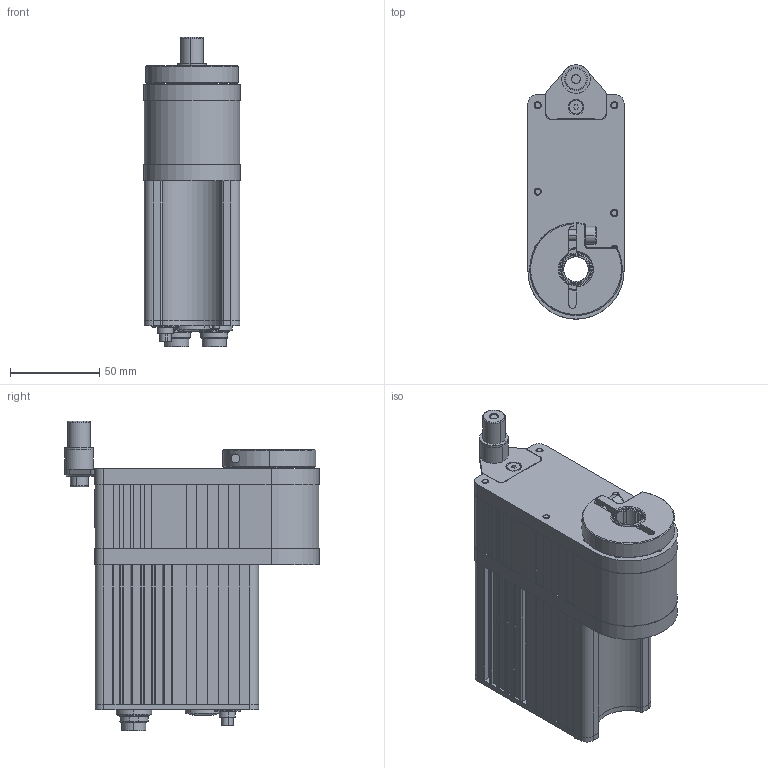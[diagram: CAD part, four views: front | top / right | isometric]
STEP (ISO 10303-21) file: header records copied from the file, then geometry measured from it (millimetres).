
FILE_DESCRIPTION (( 'STEP AP203' ), '1' );
FILE_NAME ('AG02_62.2_150W_KR14_D_B_LA_LD24,OP_SD.SUP,SBPSLDPRT.STEP', '2008-12-03T10:26:27', ( 'L. Korch' ), ( 'Siko GmbH' ), 'SwSTEP 2.0', 'SolidWorks 2006233', '' );
FILE_SCHEMA (( 'CONFIG_CONTROL_DESIGN' ));
Length unit declared in the file: millimetre
Products named in the file (1): AG02_62.2_150W_KR14_D_B_LA_LD24,OP_SD.SUP,SBPSLDPRT
Bounding box: 54 x 142.72 x 173.6 mm (x, y, z)
Surface area: 93987.5 mm2 (no closed solid volume)
Topology: 0 solids, 174 shells, 1114 faces, 6784 edges, 5738 vertices
Faces by surface type: plane 607, cylinder 336, cone 100, torus 34, sphere 32, bspline 5
Entity records: 75069 total; most frequent: CARTESIAN_POINT 26353, DIRECTION 8983, ORIENTED_EDGE 8676, EDGE_CURVE 6732, VERTEX_POINT 5714, LINE 4317, VECTOR 4317, AXIS2_PLACEMENT_3D 2333
